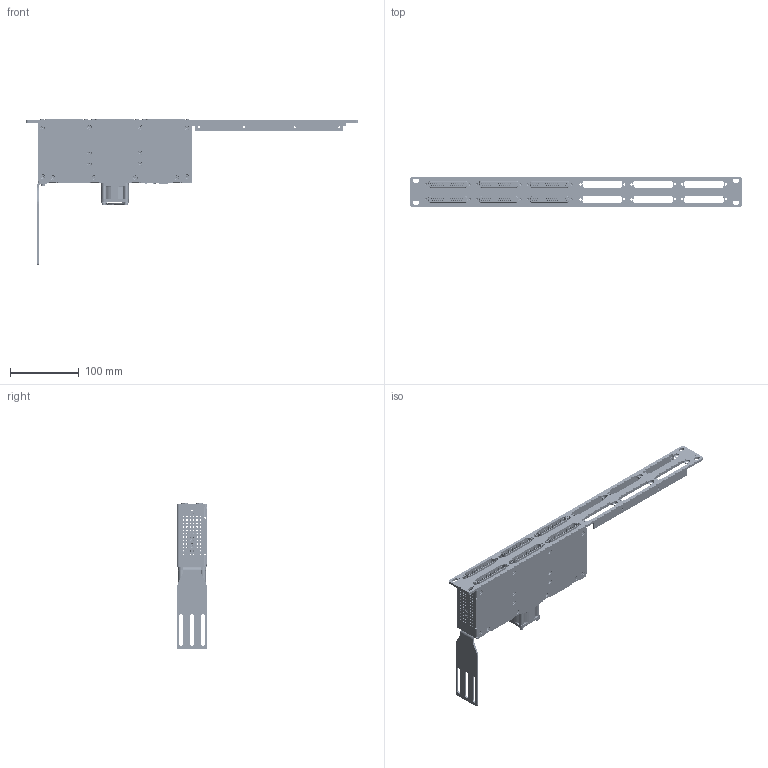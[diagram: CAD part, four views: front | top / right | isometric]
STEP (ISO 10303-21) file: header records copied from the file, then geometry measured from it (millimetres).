
FILE_DESCRIPTION((''),'2;1');
FILE_NAME('ASM0001_ASM','2022-06-17T08:40:28',('kleong'),(''),'CREO PARAMETRIC BY PTC INC, 2021063','CREO PARAMETRIC BY PTC INC, 2021063','');
FILE_SCHEMA(('AUTOMOTIVE_DESIGN { 1 0 10303 214 1 1 1 1 }'));
Products named in the file (1): ASM0001_ASM
Bounding box: 482.6 x 43.66 x 213.17 mm (x, y, z)
Volume: 72088.6 mm3; surface area: 358506.8 mm2
Topology: 11 solids, 709 shells, 17303 faces, 54560 edges, 36912 vertices
Faces by surface type: plane 10928, cylinder 4548, cone 877, sphere 300, bspline 287, extrusion 232, torus 131
Entity records: 972498 total; most frequent: CARTESIAN_POINT 283648, ORIENTED_EDGE 94486, DIRECTION 87533, PRESENTATION_STYLE_ASSIGNMENT 58732, EDGE_CURVE 54068, STYLED_ITEM 48589, CURVE_STYLE 46802, VECTOR 39020
